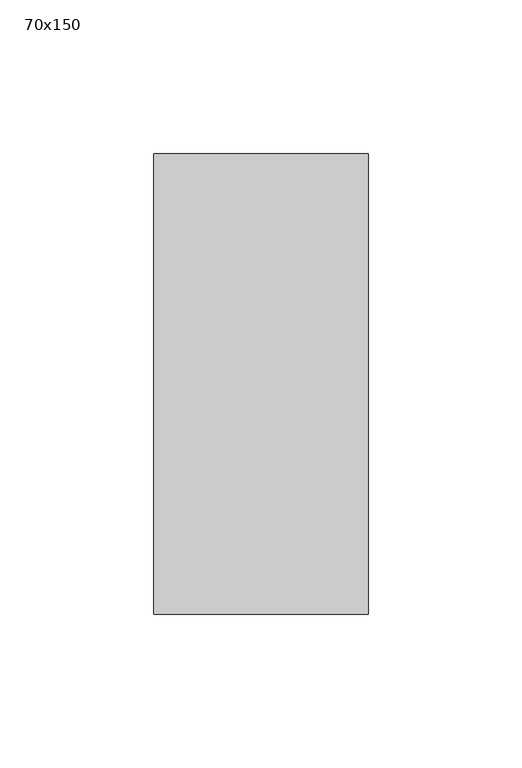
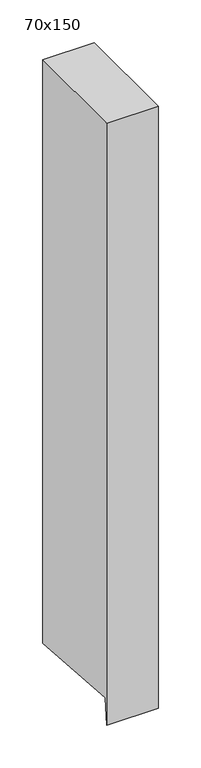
"""IFC4 building model written with IfcOpenShell, lengths in millimetres: member geometry, 長方形のマリオン : 70x150."""

from ifc_helpers import new_model, si_unit, frame, origin, place, context, project, spatial, polyline, outline, extrude, source, transform, mapped, element, save


def member_70x150_151b7a31(model_context):
    return source(origin(), model_context, "Body", "SweptSolid", [
        extrude(outline(polyline([(-75.0, 0.0), (75.0, 0.0), (75.0, -835.6402638), (-72.1089919, -824.376198), (-75.0, -862.1328391), (-75.0, 0.0)])), frame((-70.0, 0.0, 0.0), z_axis=(1.0, 0.0, 0.0), x_axis=(0.0, 1.0, 0.0)), (0.0, 0.0, 1.0), 70.0),
    ])


if __name__ == "__main__":
    model = new_model("IFC4")
    model_context = context("Model", 3, world=origin())
    ifc_project = project(units=[si_unit("LENGTHUNIT", "METRE", prefix="MILLI")], contexts=[model_context])
    site = spatial("IfcSite", under=ifc_project)
    building = spatial("IfcBuilding", under=site)
    placement = place(None, origin())
    member_70x150_shape = member_70x150_151b7a31(model_context)
    element("IfcMember", 1, ObjectType="長方形のマリオン : 70x150", at=placement, inside=building, context=model_context, shape_type="MappedRepresentation", body=[
        mapped(member_70x150_shape, transform((0.0, 0.0, 0.0), x_axis=(1.0, 0.0, 0.0), y_axis=(0.0, 1.0, 0.0), z_axis=(0.0, 0.0, 1.0))),
    ])
    save(model, "model.ifc")
